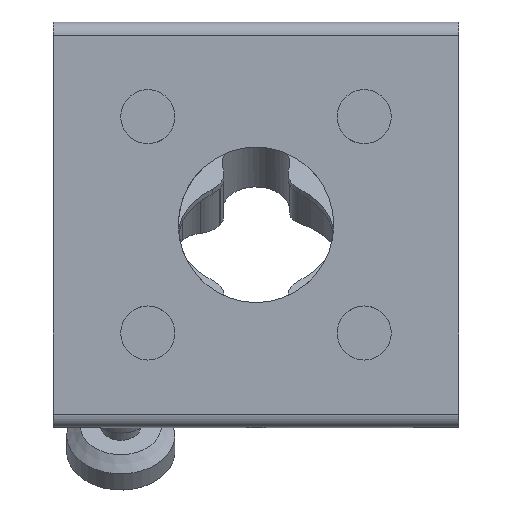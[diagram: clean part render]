
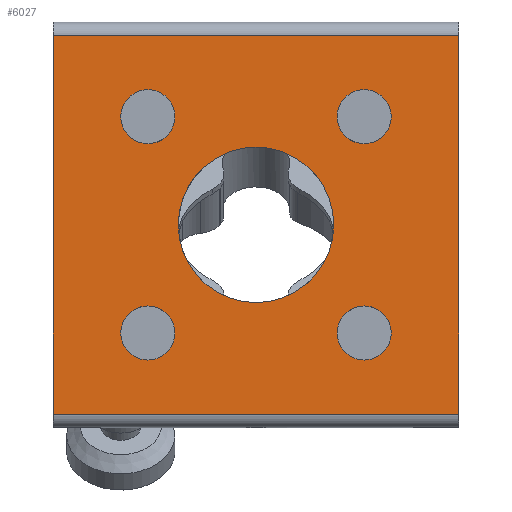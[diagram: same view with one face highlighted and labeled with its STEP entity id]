
A CAD part, left-side view. The second image highlights one B-rep face of the part: STEP entity #6027.
In plain terms, the highlighted planar face has unit normal (-1, 0, 0).
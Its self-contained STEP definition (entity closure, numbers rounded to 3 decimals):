
#218=FACE_BOUND('',#918,.T.);
#219=FACE_BOUND('',#919,.T.);
#220=FACE_BOUND('',#920,.T.);
#221=FACE_BOUND('',#921,.T.);
#222=FACE_BOUND('',#922,.T.);
#360=PLANE('',#6504);
#568=FACE_OUTER_BOUND('',#917,.T.);
#917=EDGE_LOOP('',(#4477,#4478,#4479,#4480));
#918=EDGE_LOOP('',(#4481));
#919=EDGE_LOOP('',(#4482,#4483));
#920=EDGE_LOOP('',(#4484,#4485));
#921=EDGE_LOOP('',(#4486,#4487));
#922=EDGE_LOOP('',(#4488,#4489));
#1361=LINE('',#9507,#1793);
#1367=LINE('',#9524,#1799);
#1373=LINE('',#9565,#1805);
#1379=LINE('',#9589,#1811);
#1793=VECTOR('',#7614,10.);
#1799=VECTOR('',#7628,10.);
#1805=VECTOR('',#7670,10.);
#1811=VECTOR('',#7680,10.);
#2156=CIRCLE('',#6505,5.75);
#2157=CIRCLE('',#6506,2.);
#2158=CIRCLE('',#6507,2.);
#2159=CIRCLE('',#6508,2.);
#2160=CIRCLE('',#6509,2.);
#2161=CIRCLE('',#6510,2.);
#2162=CIRCLE('',#6511,2.);
#2163=CIRCLE('',#6512,2.);
#2164=CIRCLE('',#6513,2.);
#2612=VERTEX_POINT('',#9504);
#2613=VERTEX_POINT('',#9506);
#2620=VERTEX_POINT('',#9522);
#2637=VERTEX_POINT('',#9564);
#2643=VERTEX_POINT('',#9592);
#2644=VERTEX_POINT('',#9594);
#2645=VERTEX_POINT('',#9595);
#2646=VERTEX_POINT('',#9598);
#2647=VERTEX_POINT('',#9599);
#2648=VERTEX_POINT('',#9602);
#2649=VERTEX_POINT('',#9603);
#2650=VERTEX_POINT('',#9606);
#2651=VERTEX_POINT('',#9607);
#3308=EDGE_CURVE('',#2612,#2613,#1361,.T.);
#3317=EDGE_CURVE('',#2620,#2612,#1367,.T.);
#3337=EDGE_CURVE('',#2613,#2637,#1373,.T.);
#3345=EDGE_CURVE('',#2637,#2620,#1379,.T.);
#3347=EDGE_CURVE('',#2643,#2643,#2156,.T.);
#3348=EDGE_CURVE('',#2644,#2645,#2157,.T.);
#3349=EDGE_CURVE('',#2645,#2644,#2158,.T.);
#3350=EDGE_CURVE('',#2646,#2647,#2159,.T.);
#3351=EDGE_CURVE('',#2647,#2646,#2160,.T.);
#3352=EDGE_CURVE('',#2648,#2649,#2161,.T.);
#3353=EDGE_CURVE('',#2649,#2648,#2162,.T.);
#3354=EDGE_CURVE('',#2650,#2651,#2163,.T.);
#3355=EDGE_CURVE('',#2651,#2650,#2164,.T.);
#4477=ORIENTED_EDGE('',*,*,#3308,.F.);
#4478=ORIENTED_EDGE('',*,*,#3317,.F.);
#4479=ORIENTED_EDGE('',*,*,#3345,.F.);
#4480=ORIENTED_EDGE('',*,*,#3337,.F.);
#4481=ORIENTED_EDGE('',*,*,#3347,.T.);
#4482=ORIENTED_EDGE('',*,*,#3348,.T.);
#4483=ORIENTED_EDGE('',*,*,#3349,.T.);
#4484=ORIENTED_EDGE('',*,*,#3350,.T.);
#4485=ORIENTED_EDGE('',*,*,#3351,.T.);
#4486=ORIENTED_EDGE('',*,*,#3352,.T.);
#4487=ORIENTED_EDGE('',*,*,#3353,.T.);
#4488=ORIENTED_EDGE('',*,*,#3354,.T.);
#4489=ORIENTED_EDGE('',*,*,#3355,.T.);
#6027=ADVANCED_FACE('',(#568,#218,#219,#220,#221,#222),#360,.T.);
#6504=AXIS2_PLACEMENT_3D('',#9591,#7682,#7683);
#6505=AXIS2_PLACEMENT_3D('',#9593,#7684,#7685);
#6506=AXIS2_PLACEMENT_3D('',#9596,#7686,#7687);
#6507=AXIS2_PLACEMENT_3D('',#9597,#7688,#7689);
#6508=AXIS2_PLACEMENT_3D('',#9600,#7690,#7691);
#6509=AXIS2_PLACEMENT_3D('',#9601,#7692,#7693);
#6510=AXIS2_PLACEMENT_3D('',#9604,#7694,#7695);
#6511=AXIS2_PLACEMENT_3D('',#9605,#7696,#7697);
#6512=AXIS2_PLACEMENT_3D('',#9608,#7698,#7699);
#6513=AXIS2_PLACEMENT_3D('',#9609,#7700,#7701);
#7614=DIRECTION('',(0.,-1.,0.));
#7628=DIRECTION('',(0.,0.,1.));
#7670=DIRECTION('',(0.,0.,-1.));
#7680=DIRECTION('',(0.,1.,0.));
#7682=DIRECTION('center_axis',(-1.,0.,0.));
#7683=DIRECTION('ref_axis',(0.,0.,1.));
#7684=DIRECTION('center_axis',(1.,0.,0.));
#7685=DIRECTION('ref_axis',(0.,0.,-1.));
#7686=DIRECTION('center_axis',(1.,0.,0.));
#7687=DIRECTION('ref_axis',(0.,0.,1.));
#7688=DIRECTION('center_axis',(1.,0.,0.));
#7689=DIRECTION('ref_axis',(0.,0.,1.));
#7690=DIRECTION('center_axis',(1.,0.,0.));
#7691=DIRECTION('ref_axis',(0.,0.,1.));
#7692=DIRECTION('center_axis',(1.,0.,0.));
#7693=DIRECTION('ref_axis',(0.,0.,1.));
#7694=DIRECTION('center_axis',(1.,0.,0.));
#7695=DIRECTION('ref_axis',(0.,0.,1.));
#7696=DIRECTION('center_axis',(1.,0.,0.));
#7697=DIRECTION('ref_axis',(0.,0.,1.));
#7698=DIRECTION('center_axis',(1.,0.,0.));
#7699=DIRECTION('ref_axis',(0.,0.,1.));
#7700=DIRECTION('center_axis',(1.,0.,0.));
#7701=DIRECTION('ref_axis',(0.,0.,1.));
#9504=CARTESIAN_POINT('',(-15.,30.,14.));
#9506=CARTESIAN_POINT('',(-15.,0.,14.));
#9507=CARTESIAN_POINT('',(-15.,0.,14.));
#9522=CARTESIAN_POINT('',(-15.,30.,-14.));
#9524=CARTESIAN_POINT('',(-15.,30.,15.));
#9564=CARTESIAN_POINT('',(-15.,0.,-14.));
#9565=CARTESIAN_POINT('',(-15.,0.,15.));
#9589=CARTESIAN_POINT('',(-15.,0.,-14.));
#9591=CARTESIAN_POINT('Origin',(-15.,0.,-15.));
#9592=CARTESIAN_POINT('',(-15.,15.,5.75));
#9593=CARTESIAN_POINT('Origin',(-15.,15.,0.));
#9594=CARTESIAN_POINT('',(-15.,23.,10.));
#9595=CARTESIAN_POINT('',(-15.,23.,6.));
#9596=CARTESIAN_POINT('Origin',(-15.,23.,8.));
#9597=CARTESIAN_POINT('Origin',(-15.,23.,8.));
#9598=CARTESIAN_POINT('',(-15.,7.,10.));
#9599=CARTESIAN_POINT('',(-15.,7.,6.));
#9600=CARTESIAN_POINT('Origin',(-15.,7.,8.));
#9601=CARTESIAN_POINT('Origin',(-15.,7.,8.));
#9602=CARTESIAN_POINT('',(-15.,23.,-6.));
#9603=CARTESIAN_POINT('',(-15.,23.,-10.));
#9604=CARTESIAN_POINT('Origin',(-15.,23.,-8.));
#9605=CARTESIAN_POINT('Origin',(-15.,23.,-8.));
#9606=CARTESIAN_POINT('',(-15.,7.,-6.));
#9607=CARTESIAN_POINT('',(-15.,7.,-10.));
#9608=CARTESIAN_POINT('Origin',(-15.,7.,-8.));
#9609=CARTESIAN_POINT('Origin',(-15.,7.,-8.));
